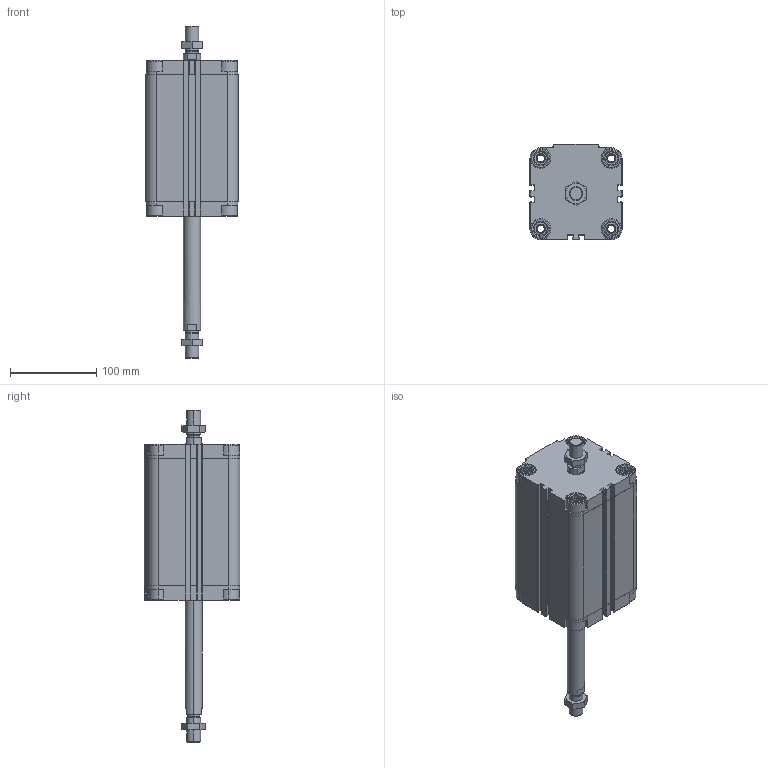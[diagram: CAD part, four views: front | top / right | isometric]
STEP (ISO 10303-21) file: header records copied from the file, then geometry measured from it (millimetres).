
FILE_DESCRIPTION (( 'STEP AP203' ), '1' );
FILE_NAME ('CDVU80-125M-P.STEP', '2020-07-21T15:26:27', ( '' ), ( '' ), 'SwSTEP 2.0', 'SolidWorks 2019', '' );
FILE_SCHEMA (( 'CONFIG_CONTROL_DESIGN' ));
Length unit declared in the file: millimetre
Products named in the file (1): CDVU80-125M-P
Bounding box: 107 x 111 x 386 mm (x, y, z)
Volume: 1397174.7 mm3; surface area: 235169.5 mm2
Topology: 4 solids, 4 shells, 706 faces, 1888 edges, 1234 vertices
Faces by surface type: plane 410, cylinder 216, cone 80
Entity records: 22967 total; most frequent: CARTESIAN_POINT 5177, ORIENTED_EDGE 3768, DIRECTION 3610, EDGE_CURVE 1884, AXIS2_PLACEMENT_3D 1235, VERTEX_POINT 1234, VECTOR 1140, LINE 1140
